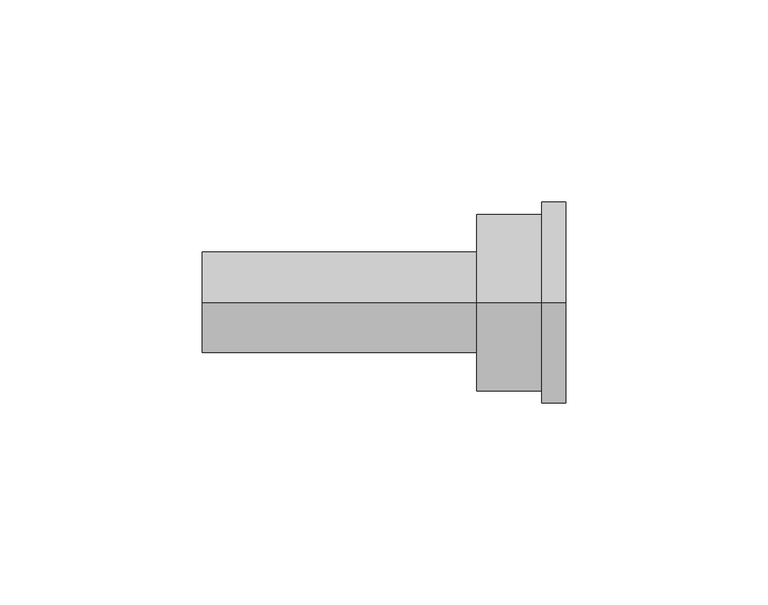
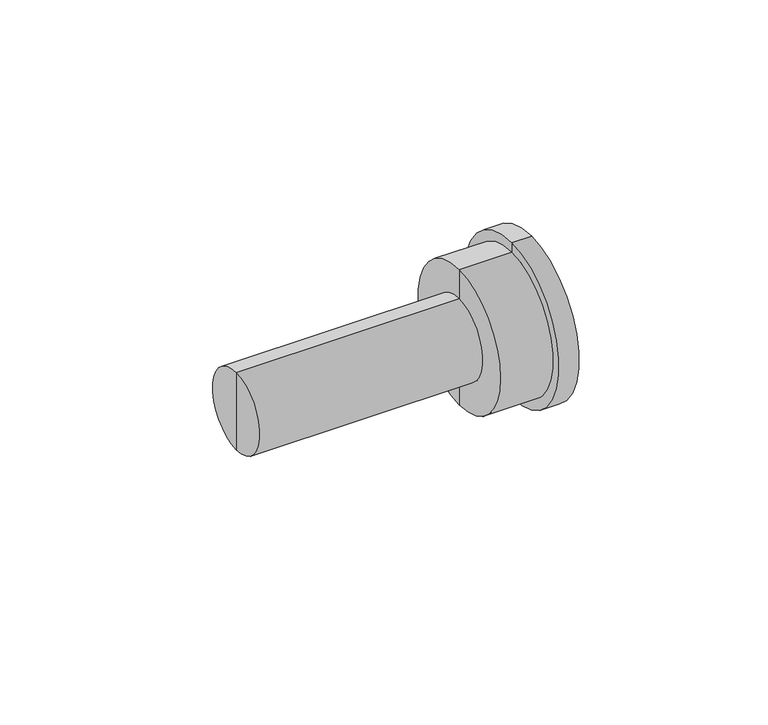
"""IFC4 building model written with IfcOpenShell, lengths in millimetres: pipe fitting geometry, Plumbing_Pipe-Fittings_Plasson_Free-Nut-Union-for-Water-Meter_358916 : Plumbing_Pipe-Fittings_Plasson_Free-Nut-Union-for-Water-Meter_358916."""

from ifc_helpers import new_model, si_unit, frame, origin, place, context, project, spatial, polyline, circle_curve, source, transform, mapped, element, save
from ifc_brep_helpers import plane_surface, cylinder_surface, revolved_surface, advanced_brep


def pipe_fitting_480f6e4c(model_context):
    return source(origin(), model_context, "Body", "AdvancedBrep", [
        advanced_brep(
        [(36.1290642, 0.0, -18.75), (36.1290642, 0.0, 18.75), (36.1290642, 0.0, 15.15), (36.1290642, 0.0, -15.15), (24.1290642, 0.0, -18.75), (24.1290642, 0.0, 18.75), (24.1290642, 0.0, -15.15), (24.1290642, 0.0, 15.15)],
        [
            (0, 1, circle_curve(frame((36.1290642, 0.0, 0.0), z_axis=(1.0, 0.0, 0.0), x_axis=(0.0, 0.0, 1.0)), 18.75)),
            (1, 2),
            (2, 3, circle_curve(frame((36.1290642, 0.0, 0.0), z_axis=(-1.0, 0.0, 0.0), x_axis=(0.0, 0.0, 1.0)), 15.15)),
            (3, 0),
            (1, 0, circle_curve(frame((36.1290642, 0.0, 0.0), z_axis=(1.0, 0.0, 0.0), x_axis=(0.0, 0.0, 1.0)), 18.75)),
            (3, 2, circle_curve(frame((36.1290642, 0.0, 0.0), z_axis=(-1.0, 0.0, 0.0), x_axis=(0.0, 0.0, 1.0)), 15.15)),
            (4, 5, circle_curve(frame((24.1290642, 0.0, 0.0), z_axis=(1.0, 0.0, 0.0), x_axis=(0.0, 0.0, 1.0)), 18.75)),
            (5, 1),
            (0, 4),
            (5, 4, circle_curve(frame((24.1290642, 0.0, 0.0), z_axis=(1.0, 0.0, 0.0), x_axis=(0.0, 0.0, 1.0)), 18.75)),
            (6, 7, circle_curve(frame((24.1290642, 0.0, 0.0), z_axis=(1.0, 0.0, 0.0), x_axis=(0.0, 0.0, 1.0)), 15.15)),
            (7, 5),
            (4, 6),
            (7, 6, circle_curve(frame((24.1290642, 0.0, 0.0), z_axis=(1.0, 0.0, 0.0), x_axis=(0.0, 0.0, 1.0)), 15.15)),
            (2, 7),
            (6, 3),
        ],
        [
            plane_surface(frame((36.1290642, 0.0, 0.0), z_axis=(1.0, 0.0, 0.0), x_axis=(0.0, 0.0, 1.0))),
            cylinder_surface(frame((30.4623975, 0.0, 0.0), z_axis=(-1.0, 0.0, 0.0), x_axis=(0.0, 0.0, 1.0)), 18.75),
            plane_surface(frame((24.1290642, 0.0, 0.0), z_axis=(-1.0, 0.0, 0.0), x_axis=(0.0, 0.0, 1.0))),
            revolved_surface(polyline([(24.1290642, 0.0, 15.15), (36.1290642, 0.0, 15.15)]), (30.4623975, 0.0, 0.0), (-1.0, 0.0, 0.0)),
        ],
        [
            (0, [[1, 2, 3, 4]]),
            (0, [[5, -4, 6, -2]]),
            (1, [[7, 8, -1, 9]]),
            (1, [[10, -9, -5, -8]]),
            (2, [[11, 12, -7, 13]]),
            (2, [[14, -13, -10, -12]]),
            (3, [[-3, 15, -11, 16]]),
            (3, [[-6, -16, -14, -15]]),
        ],
    ),
        advanced_brep(
        [(30.1290642, 0.0, -25.0), (30.1290642, 0.0, 25.0), (36.1290642, 0.0, 25.0), (36.1290642, 0.0, -25.0), (30.1290642, 0.0, -21.875), (30.1290642, 0.0, 21.875), (14.1290642, 0.0, -21.875), (14.1290642, 0.0, 21.875), (14.1290642, 0.0, -12.5), (14.1290642, 0.0, 12.5), (-53.8709358, 0.0, -12.5), (-53.8709358, 0.0, 12.5), (-53.8709358, 0.0, 0.0), (24.1290642, 0.0, -18.75), (24.1290642, 0.0, 18.75), (24.1290642, 0.0, 0.0), (36.1290642, 0.0, -18.75), (36.1290642, 0.0, 18.75)],
        [
            (0, 1, circle_curve(frame((30.1290642, 0.0, 0.0), z_axis=(1.0, 0.0, 0.0), x_axis=(0.0, 0.0, 1.0)), 25.0)),
            (1, 2),
            (2, 3, circle_curve(frame((36.1290642, 0.0, 0.0), z_axis=(-1.0, 0.0, 0.0), x_axis=(0.0, 0.0, 1.0)), 25.0)),
            (3, 0),
            (1, 0, circle_curve(frame((30.1290642, 0.0, 0.0), z_axis=(1.0, 0.0, 0.0), x_axis=(0.0, 0.0, 1.0)), 25.0)),
            (3, 2, circle_curve(frame((36.1290642, 0.0, 0.0), z_axis=(-1.0, 0.0, 0.0), x_axis=(0.0, 0.0, 1.0)), 25.0)),
            (4, 5, circle_curve(frame((30.1290642, 0.0, 0.0), z_axis=(1.0, 0.0, 0.0), x_axis=(0.0, 0.0, 1.0)), 21.875)),
            (5, 1),
            (0, 4),
            (5, 4, circle_curve(frame((30.1290642, 0.0, 0.0), z_axis=(1.0, 0.0, 0.0), x_axis=(0.0, 0.0, 1.0)), 21.875)),
            (6, 7, circle_curve(frame((14.1290642, 0.0, 0.0), z_axis=(1.0, 0.0, 0.0), x_axis=(0.0, 0.0, 1.0)), 21.875)),
            (7, 5),
            (4, 6),
            (7, 6, circle_curve(frame((14.1290642, 0.0, 0.0), z_axis=(1.0, 0.0, 0.0), x_axis=(0.0, 0.0, 1.0)), 21.875)),
            (8, 9, circle_curve(frame((14.1290642, 0.0, 0.0), z_axis=(1.0, 0.0, 0.0), x_axis=(0.0, 0.0, 1.0)), 12.5)),
            (9, 7),
            (6, 8),
            (9, 8, circle_curve(frame((14.1290642, 0.0, 0.0), z_axis=(1.0, 0.0, 0.0), x_axis=(0.0, 0.0, 1.0)), 12.5)),
            (10, 11, circle_curve(frame((-53.8709358, 0.0, 0.0), z_axis=(1.0, 0.0, 0.0), x_axis=(0.0, 0.0, 1.0)), 12.5)),
            (11, 9),
            (8, 10),
            (11, 10, circle_curve(frame((-53.8709358, 0.0, 0.0), z_axis=(1.0, 0.0, 0.0), x_axis=(0.0, 0.0, 1.0)), 12.5)),
            (12, 11),
            (10, 12),
            (13, 14, circle_curve(frame((24.1290642, 0.0, 0.0), z_axis=(1.0, 0.0, 0.0), x_axis=(0.0, 0.0, 1.0)), 18.75)),
            (14, 15),
            (15, 13),
            (14, 13, circle_curve(frame((24.1290642, 0.0, 0.0), z_axis=(1.0, 0.0, 0.0), x_axis=(0.0, 0.0, 1.0)), 18.75)),
            (16, 17, circle_curve(frame((36.1290642, 0.0, 0.0), z_axis=(1.0, 0.0, 0.0), x_axis=(0.0, 0.0, 1.0)), 18.75)),
            (17, 14),
            (13, 16),
            (17, 16, circle_curve(frame((36.1290642, 0.0, 0.0), z_axis=(1.0, 0.0, 0.0), x_axis=(0.0, 0.0, 1.0)), 18.75)),
            (2, 17),
            (16, 3),
        ],
        [
            cylinder_surface(frame((-58.8709358, 0.0, 0.0), z_axis=(-1.0, 0.0, 0.0), x_axis=(0.0, 0.0, 1.0)), 25.0),
            plane_surface(frame((30.1290642, 0.0, 0.0), z_axis=(-1.0, 0.0, 0.0), x_axis=(0.0, 0.0, 1.0))),
            cylinder_surface(frame((-58.8709358, 0.0, 0.0), z_axis=(-1.0, 0.0, 0.0), x_axis=(0.0, 0.0, 1.0)), 21.875),
            plane_surface(frame((14.1290642, 0.0, 0.0), z_axis=(-1.0, 0.0, 0.0), x_axis=(0.0, 0.0, 1.0))),
            cylinder_surface(frame((-58.8709358, 0.0, 0.0), z_axis=(-1.0, 0.0, 0.0), x_axis=(0.0, 0.0, 1.0)), 12.5),
            plane_surface(frame((-53.8709358, 0.0, 0.0), z_axis=(-1.0, 0.0, 0.0), x_axis=(0.0, 0.0, 1.0))),
            plane_surface(frame((24.1290642, 0.0, 0.0), z_axis=(1.0, 0.0, 0.0), x_axis=(0.0, 0.0, 1.0))),
            revolved_surface(polyline([(24.129064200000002, 0.0, 18.75), (36.1290642, 0.0, 18.75)]), (-58.8709358, 0.0, 0.0), (-1.0, 0.0, 0.0)),
            plane_surface(frame((36.1290642, 0.0, 0.0), z_axis=(1.0, 0.0, 0.0), x_axis=(0.0, 0.0, 1.0))),
        ],
        [
            (0, [[1, 2, 3, 4]]),
            (0, [[5, -4, 6, -2]]),
            (1, [[7, 8, -1, 9]]),
            (1, [[10, -9, -5, -8]]),
            (2, [[11, 12, -7, 13]]),
            (2, [[14, -13, -10, -12]]),
            (3, [[15, 16, -11, 17]]),
            (3, [[18, -17, -14, -16]]),
            (4, [[19, 20, -15, 21]]),
            (4, [[22, -21, -18, -20]]),
            (5, [[23, -19, 24]]),
            (5, [[-24, -22, -23]]),
            (6, [[25, 26, 27]]),
            (6, [[28, -27, -26]]),
            (7, [[29, 30, -25, 31]]),
            (7, [[32, -31, -28, -30]]),
            (8, [[-3, 33, -29, 34]]),
            (8, [[-6, -34, -32, -33]]),
        ],
    ),
    ])


if __name__ == "__main__":
    model = new_model("IFC4")
    model_context = context("Model", 3, world=origin())
    ifc_project = project(units=[si_unit("LENGTHUNIT", "METRE", prefix="MILLI")], contexts=[model_context])
    site = spatial("IfcSite", under=ifc_project)
    building = spatial("IfcBuilding", under=site)
    placement = place(None, origin())
    pipe_fitting_shape = pipe_fitting_480f6e4c(model_context)
    element("IfcPipeFitting", 1, ObjectType="Plumbing_Pipe-Fittings_Plasson_Free-Nut-Union-for-Water-Meter_358916 : Plumbing_Pipe-Fittings_Plasson_Free-Nut-Union-for-Water-Meter_358916", at=placement, inside=building, context=model_context, shape_type="MappedRepresentation", body=[
        mapped(pipe_fitting_shape, transform((0.0, 0.0, 0.0), x_axis=(1.0, 0.0, 0.0), y_axis=(0.0, 1.0, 0.0), z_axis=(0.0, 0.0, 1.0))),
    ])
    save(model, "model.ifc")
